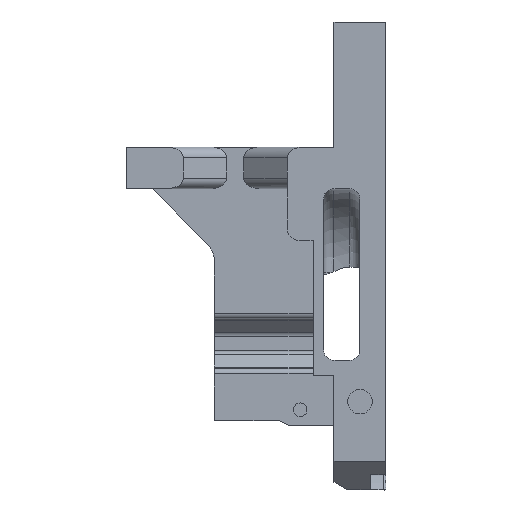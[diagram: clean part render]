
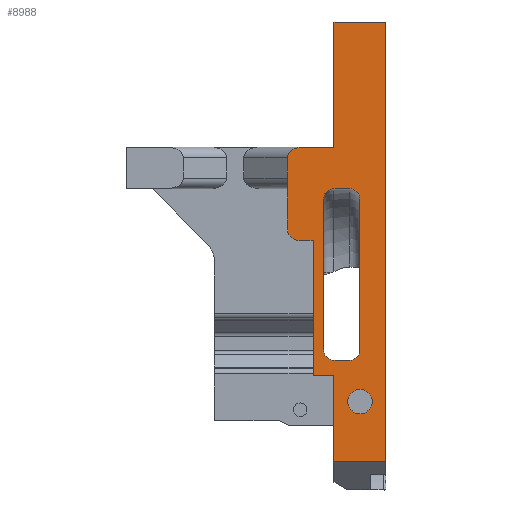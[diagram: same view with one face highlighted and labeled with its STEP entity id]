
A CAD part, left-side view. The second image highlights one B-rep face of the part: STEP entity #8988.
In plain terms, the highlighted planar face has unit normal (-1, 0, 0).
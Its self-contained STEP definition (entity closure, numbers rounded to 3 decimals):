
#1435=CARTESIAN_POINT('Vertex',(-27.5,10.,-34.5)) ;
#1438=CARTESIAN_POINT('Line Origine',(-27.5,10.,-26.275)) ;
#1442=CARTESIAN_POINT('Vertex',(-27.5,10.,-18.05)) ;
#1986=CARTESIAN_POINT('Vertex',(-27.5,15.889,25.95)) ;
#1989=CARTESIAN_POINT('Line Origine',(-27.5,12.944,25.95)) ;
#1993=CARTESIAN_POINT('Vertex',(-27.5,10.,25.95)) ;
#2194=CARTESIAN_POINT('Control Point',(-27.5,19.,23.95)) ;
#2195=CARTESIAN_POINT('Control Point',(-27.5,19.,24.219)) ;
#2196=CARTESIAN_POINT('Control Point',(-27.5,18.93,24.487)) ;
#2197=CARTESIAN_POINT('Control Point',(-27.5,18.791,24.728)) ;
#2198=CARTESIAN_POINT('Control Point',(-27.5,18.457,25.127)) ;
#2199=CARTESIAN_POINT('Control Point',(-27.5,18.028,25.42)) ;
#2200=CARTESIAN_POINT('Control Point',(-27.5,17.81,25.538)) ;
#2201=CARTESIAN_POINT('Control Point',(-27.5,17.309,25.754)) ;
#2202=CARTESIAN_POINT('Control Point',(-27.5,16.778,25.882)) ;
#2203=CARTESIAN_POINT('Control Point',(-27.5,16.483,25.927)) ;
#2204=CARTESIAN_POINT('Control Point',(-27.5,16.186,25.95)) ;
#2205=CARTESIAN_POINT('Control Point',(-27.5,15.889,25.95)) ;
#2206=CARTESIAN_POINT('Vertex',(-27.5,19.,23.95)) ;
#2230=CARTESIAN_POINT('Vertex',(-27.5,19.,19.95)) ;
#2233=CARTESIAN_POINT('Line Origine',(-27.5,19.,21.95)) ;
#2485=CARTESIAN_POINT('Axis2P3D Location',(-27.5,0.,0.)) ;
#3604=CARTESIAN_POINT('Vertex',(-27.5,0.,-34.5)) ;
#3607=CARTESIAN_POINT('Line Origine',(-27.5,9.519,-34.5)) ;
#5043=CARTESIAN_POINT('Vertex',(-27.5,19.,10.45)) ;
#5048=CARTESIAN_POINT('Line Origine',(-27.5,19.,11.7)) ;
#5052=CARTESIAN_POINT('Vertex',(-27.5,19.,12.95)) ;
#5055=CARTESIAN_POINT('Line Origine',(-27.5,19.,15.45)) ;
#5059=CARTESIAN_POINT('Vertex',(-27.5,19.,17.95)) ;
#5062=CARTESIAN_POINT('Line Origine',(-27.5,19.,18.95)) ;
#5562=CARTESIAN_POINT('Vertex',(-27.5,16.5,7.95)) ;
#5565=CARTESIAN_POINT('Axis2P3D Location',(-27.5,16.5,10.45)) ;
#5595=CARTESIAN_POINT('Vertex',(-27.5,2.65,-23.)) ;
#5598=CARTESIAN_POINT('Axis2P3D Location',(-27.5,5.,-23.)) ;
#5602=CARTESIAN_POINT('Vertex',(-27.5,7.35,-23.)) ;
#5622=CARTESIAN_POINT('Axis2P3D Location',(-27.5,5.,-23.)) ;
#8246=CARTESIAN_POINT('Line Origine',(-27.5,12.,-18.05)) ;
#8250=CARTESIAN_POINT('Vertex',(-27.5,14.,-18.05)) ;
#8265=CARTESIAN_POINT('Line Origine',(-27.5,14.,-5.05)) ;
#8269=CARTESIAN_POINT('Vertex',(-27.5,14.,7.95)) ;
#8311=CARTESIAN_POINT('Line Origine',(-27.5,15.25,7.95)) ;
#8328=CARTESIAN_POINT('Axis2P3D Location',(-27.5,7.,15.95)) ;
#8332=CARTESIAN_POINT('Vertex',(-27.5,7.,17.95)) ;
#8334=CARTESIAN_POINT('Vertex',(-27.5,5.,15.95)) ;
#8688=CARTESIAN_POINT('Line Origine',(-27.5,8.5,17.95)) ;
#8692=CARTESIAN_POINT('Vertex',(-27.5,10.,17.95)) ;
#8861=CARTESIAN_POINT('Axis2P3D Location',(-27.5,10.,15.95)) ;
#8865=CARTESIAN_POINT('Vertex',(-27.5,12.,15.95)) ;
#8905=CARTESIAN_POINT('Line Origine',(-27.5,0.,7.75)) ;
#8909=CARTESIAN_POINT('Vertex',(-27.5,0.,50.)) ;
#8912=CARTESIAN_POINT('Line Origine',(-27.5,5.,50.)) ;
#8916=CARTESIAN_POINT('Vertex',(-27.5,10.,50.)) ;
#8919=CARTESIAN_POINT('Line Origine',(-27.5,10.,37.975)) ;
#8941=CARTESIAN_POINT('Line Origine',(-27.5,8.5,-15.05)) ;
#8945=CARTESIAN_POINT('Vertex',(-27.5,7.,-15.05)) ;
#8947=CARTESIAN_POINT('Vertex',(-27.5,10.,-15.05)) ;
#8950=CARTESIAN_POINT('Axis2P3D Location',(-27.5,10.,-13.05)) ;
#8954=CARTESIAN_POINT('Vertex',(-27.5,12.,-13.05)) ;
#8957=CARTESIAN_POINT('Line Origine',(-27.5,12.,1.45)) ;
#8962=CARTESIAN_POINT('Line Origine',(-27.5,5.,1.45)) ;
#8966=CARTESIAN_POINT('Vertex',(-27.5,5.,-13.05)) ;
#8969=CARTESIAN_POINT('Axis2P3D Location',(-27.5,7.,-13.05)) ;
#1439=DIRECTION('Vector Direction',(0.,0.,1.)) ;
#1990=DIRECTION('Vector Direction',(0.,-1.,0.)) ;
#2234=DIRECTION('Vector Direction',(0.,0.,-1.)) ;
#2486=DIRECTION('Axis2P3D Direction',(1.,0.,0.)) ;
#2487=DIRECTION('Axis2P3D XDirection',(0.,1.,0.)) ;
#3608=DIRECTION('Vector Direction',(0.,1.,0.)) ;
#5049=DIRECTION('Vector Direction',(0.,0.,-1.)) ;
#5056=DIRECTION('Vector Direction',(0.,0.,1.)) ;
#5063=DIRECTION('Vector Direction',(0.,0.,1.)) ;
#5566=DIRECTION('Axis2P3D Direction',(1.,0.,0.)) ;
#5599=DIRECTION('Axis2P3D Direction',(1.,0.,0.)) ;
#5623=DIRECTION('Axis2P3D Direction',(1.,0.,0.)) ;
#8247=DIRECTION('Vector Direction',(0.,-1.,0.)) ;
#8266=DIRECTION('Vector Direction',(0.,0.,-1.)) ;
#8312=DIRECTION('Vector Direction',(0.,-1.,0.)) ;
#8329=DIRECTION('Axis2P3D Direction',(-1.,0.,0.)) ;
#8689=DIRECTION('Vector Direction',(0.,1.,0.)) ;
#8862=DIRECTION('Axis2P3D Direction',(-1.,0.,0.)) ;
#8906=DIRECTION('Vector Direction',(0.,0.,-1.)) ;
#8913=DIRECTION('Vector Direction',(0.,-1.,0.)) ;
#8920=DIRECTION('Vector Direction',(0.,0.,1.)) ;
#8942=DIRECTION('Vector Direction',(0.,-1.,0.)) ;
#8951=DIRECTION('Axis2P3D Direction',(1.,0.,0.)) ;
#8958=DIRECTION('Vector Direction',(0.,0.,1.)) ;
#8963=DIRECTION('Vector Direction',(0.,0.,-1.)) ;
#8970=DIRECTION('Axis2P3D Direction',(1.,0.,0.)) ;
#2488=AXIS2_PLACEMENT_3D('Plane Axis2P3D',#2485,#2486,#2487) ;
#5567=AXIS2_PLACEMENT_3D('Circle Axis2P3D',#5565,#5566,$) ;
#5600=AXIS2_PLACEMENT_3D('Circle Axis2P3D',#5598,#5599,$) ;
#5624=AXIS2_PLACEMENT_3D('Circle Axis2P3D',#5622,#5623,$) ;
#8330=AXIS2_PLACEMENT_3D('Circle Axis2P3D',#8328,#8329,$) ;
#8863=AXIS2_PLACEMENT_3D('Circle Axis2P3D',#8861,#8862,$) ;
#8952=AXIS2_PLACEMENT_3D('Circle Axis2P3D',#8950,#8951,$) ;
#8971=AXIS2_PLACEMENT_3D('Circle Axis2P3D',#8969,#8970,$) ;
#8925=ORIENTED_EDGE('',*,*,#8252,.F.) ;
#8926=ORIENTED_EDGE('',*,*,#1444,.F.) ;
#8927=ORIENTED_EDGE('',*,*,#3611,.F.) ;
#8928=ORIENTED_EDGE('',*,*,#8911,.F.) ;
#8929=ORIENTED_EDGE('',*,*,#8918,.F.) ;
#8930=ORIENTED_EDGE('',*,*,#8923,.F.) ;
#8931=ORIENTED_EDGE('',*,*,#1995,.F.) ;
#8932=ORIENTED_EDGE('',*,*,#2208,.F.) ;
#8933=ORIENTED_EDGE('',*,*,#2237,.T.) ;
#8934=ORIENTED_EDGE('',*,*,#5066,.F.) ;
#8935=ORIENTED_EDGE('',*,*,#5061,.F.) ;
#8936=ORIENTED_EDGE('',*,*,#5054,.F.) ;
#8937=ORIENTED_EDGE('',*,*,#5569,.F.) ;
#8938=ORIENTED_EDGE('',*,*,#8315,.F.) ;
#8939=ORIENTED_EDGE('',*,*,#8271,.T.) ;
#8975=ORIENTED_EDGE('',*,*,#8949,.T.) ;
#8976=ORIENTED_EDGE('',*,*,#8956,.T.) ;
#8977=ORIENTED_EDGE('',*,*,#8961,.T.) ;
#8978=ORIENTED_EDGE('',*,*,#8867,.T.) ;
#8979=ORIENTED_EDGE('',*,*,#8694,.T.) ;
#8980=ORIENTED_EDGE('',*,*,#8336,.T.) ;
#8981=ORIENTED_EDGE('',*,*,#8968,.T.) ;
#8982=ORIENTED_EDGE('',*,*,#8973,.T.) ;
#8985=ORIENTED_EDGE('',*,*,#5604,.T.) ;
#8986=ORIENTED_EDGE('',*,*,#5626,.T.) ;
#8983=FACE_BOUND('',#8974,.T.) ;
#8987=FACE_BOUND('',#8984,.T.) ;
#1440=VECTOR('Line Direction',#1439,1.) ;
#1991=VECTOR('Line Direction',#1990,1.) ;
#2235=VECTOR('Line Direction',#2234,1.) ;
#3609=VECTOR('Line Direction',#3608,1.) ;
#5050=VECTOR('Line Direction',#5049,1.) ;
#5057=VECTOR('Line Direction',#5056,1.) ;
#5064=VECTOR('Line Direction',#5063,1.) ;
#8248=VECTOR('Line Direction',#8247,1.) ;
#8267=VECTOR('Line Direction',#8266,1.) ;
#8313=VECTOR('Line Direction',#8312,1.) ;
#8690=VECTOR('Line Direction',#8689,1.) ;
#8907=VECTOR('Line Direction',#8906,1.) ;
#8914=VECTOR('Line Direction',#8913,1.) ;
#8921=VECTOR('Line Direction',#8920,1.) ;
#8943=VECTOR('Line Direction',#8942,1.) ;
#8959=VECTOR('Line Direction',#8958,1.) ;
#8964=VECTOR('Line Direction',#8963,1.) ;
#8988=ADVANCED_FACE('Corps principal',(#8940,#8983,#8987),#2489,.F.) ;
#2193=B_SPLINE_CURVE_WITH_KNOTS('',5,(#2194,#2195,#2196,#2197,#2198,#2199,#2200,#2201,#2202,#2203,#2204,#2205),.UNSPECIFIED.,.F.,.U.,(6,3,3,6),(0.,1.899,3.642,5.744),.UNSPECIFIED.) ;
#5568=CIRCLE('generated circle',#5567,2.5) ;
#5601=CIRCLE('generated circle',#5600,2.35) ;
#5625=CIRCLE('generated circle',#5624,2.35) ;
#8331=CIRCLE('generated circle',#8330,2.) ;
#8864=CIRCLE('generated circle',#8863,2.) ;
#8953=CIRCLE('generated circle',#8952,2.) ;
#8972=CIRCLE('generated circle',#8971,2.) ;
#1444=EDGE_CURVE('',#1436,#1443,#1441,.T.) ;
#1995=EDGE_CURVE('',#1987,#1994,#1992,.T.) ;
#2208=EDGE_CURVE('',#2207,#1987,#2193,.T.) ;
#2237=EDGE_CURVE('',#2207,#2231,#2236,.T.) ;
#3611=EDGE_CURVE('',#3605,#1436,#3610,.T.) ;
#5054=EDGE_CURVE('',#5044,#5053,#5051,.F.) ;
#5061=EDGE_CURVE('',#5053,#5060,#5058,.T.) ;
#5066=EDGE_CURVE('',#5060,#2231,#5065,.T.) ;
#5569=EDGE_CURVE('',#5563,#5044,#5568,.T.) ;
#5604=EDGE_CURVE('',#5603,#5596,#5601,.T.) ;
#5626=EDGE_CURVE('',#5596,#5603,#5625,.T.) ;
#8252=EDGE_CURVE('',#1443,#8251,#8249,.F.) ;
#8271=EDGE_CURVE('',#8270,#8251,#8268,.T.) ;
#8315=EDGE_CURVE('',#8270,#5563,#8314,.F.) ;
#8336=EDGE_CURVE('',#8333,#8335,#8331,.F.) ;
#8694=EDGE_CURVE('',#8693,#8333,#8691,.F.) ;
#8867=EDGE_CURVE('',#8866,#8693,#8864,.F.) ;
#8911=EDGE_CURVE('',#8910,#3605,#8908,.T.) ;
#8918=EDGE_CURVE('',#8917,#8910,#8915,.T.) ;
#8923=EDGE_CURVE('',#1994,#8917,#8922,.T.) ;
#8949=EDGE_CURVE('',#8946,#8948,#8944,.F.) ;
#8956=EDGE_CURVE('',#8948,#8955,#8953,.T.) ;
#8961=EDGE_CURVE('',#8955,#8866,#8960,.T.) ;
#8968=EDGE_CURVE('',#8335,#8967,#8965,.T.) ;
#8973=EDGE_CURVE('',#8967,#8946,#8972,.T.) ;
#8924=EDGE_LOOP('',(#8925,#8926,#8927,#8928,#8929,#8930,#8931,#8932,#8933,#8934,#8935,#8936,#8937,#8938,#8939)) ;
#8974=EDGE_LOOP('',(#8975,#8976,#8977,#8978,#8979,#8980,#8981,#8982)) ;
#8984=EDGE_LOOP('',(#8985,#8986)) ;
#8940=FACE_OUTER_BOUND('',#8924,.T.) ;
#1441=LINE('Line',#1438,#1440) ;
#1992=LINE('Line',#1989,#1991) ;
#2236=LINE('Line',#2233,#2235) ;
#3610=LINE('Line',#3607,#3609) ;
#5051=LINE('Line',#5048,#5050) ;
#5058=LINE('Line',#5055,#5057) ;
#5065=LINE('Line',#5062,#5064) ;
#8249=LINE('Line',#8246,#8248) ;
#8268=LINE('Line',#8265,#8267) ;
#8314=LINE('Line',#8311,#8313) ;
#8691=LINE('Line',#8688,#8690) ;
#8908=LINE('Line',#8905,#8907) ;
#8915=LINE('Line',#8912,#8914) ;
#8922=LINE('Line',#8919,#8921) ;
#8944=LINE('Line',#8941,#8943) ;
#8960=LINE('Line',#8957,#8959) ;
#8965=LINE('Line',#8962,#8964) ;
#2489=PLANE('',#2488) ;
#1436=VERTEX_POINT('',#1435) ;
#1443=VERTEX_POINT('',#1442) ;
#1987=VERTEX_POINT('',#1986) ;
#1994=VERTEX_POINT('',#1993) ;
#2207=VERTEX_POINT('',#2206) ;
#2231=VERTEX_POINT('',#2230) ;
#3605=VERTEX_POINT('',#3604) ;
#5044=VERTEX_POINT('',#5043) ;
#5053=VERTEX_POINT('',#5052) ;
#5060=VERTEX_POINT('',#5059) ;
#5563=VERTEX_POINT('',#5562) ;
#5596=VERTEX_POINT('',#5595) ;
#5603=VERTEX_POINT('',#5602) ;
#8251=VERTEX_POINT('',#8250) ;
#8270=VERTEX_POINT('',#8269) ;
#8333=VERTEX_POINT('',#8332) ;
#8335=VERTEX_POINT('',#8334) ;
#8693=VERTEX_POINT('',#8692) ;
#8866=VERTEX_POINT('',#8865) ;
#8910=VERTEX_POINT('',#8909) ;
#8917=VERTEX_POINT('',#8916) ;
#8946=VERTEX_POINT('',#8945) ;
#8948=VERTEX_POINT('',#8947) ;
#8955=VERTEX_POINT('',#8954) ;
#8967=VERTEX_POINT('',#8966) ;
